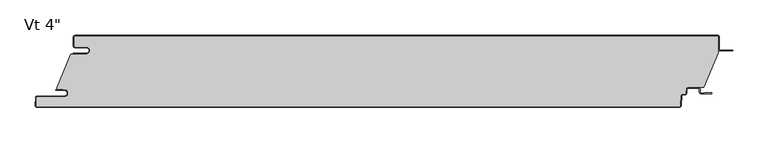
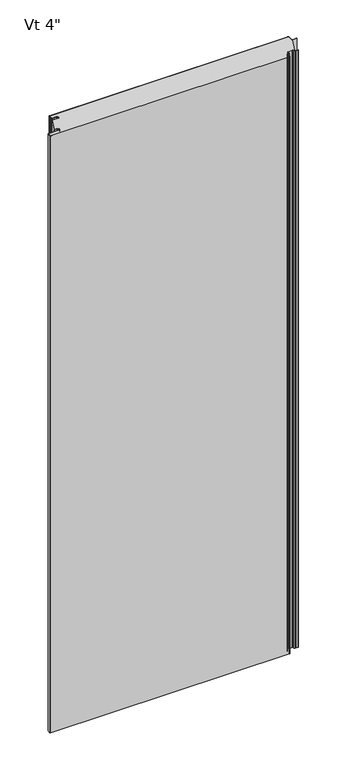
"""IFC4 building model written with IfcOpenShell, lengths in millimetres: plate geometry."""

from ifc_helpers import new_model, si_unit, point, frame, frame_2d, origin, origin_with_axes, place, context, project, spatial, polyline, circle_curve, ellipse_curve, trimmed, segment, composite_curve, outline, extrude, source, transform, mapped, element, save
from ifc_brep_helpers import plane_surface, cylinder_surface, revolved_surface, extruded_surface, advanced_brep


def plate_28f486fa(model_context):
    return source(origin(), model_context, "Body", "SolidModel", [
        extrude(outline(composite_curve([segment(polyline([(-438.4437502, -16.4625), (-454.3187502, -16.4625)]), True, "CONTINUOUS"), segment(trimmed(circle_curve(frame_2d((-454.3187502, -15.08125)), 1.38125), [point((-454.3187502, -16.4625))], [point((-455.7000002, -15.08125))], False, "CARTESIAN"), True, "CONTINUOUS"), segment(polyline([(-455.7000002, -15.08125), (-455.7000002, -2.38125)]), True, "CONTINUOUS"), segment(trimmed(circle_curve(frame_2d((-454.3187502, -2.38125)), 1.38125), [point((-455.7000002, -2.38125))], [point((-454.3187502, -1.0))], False, "CARTESIAN"), True, "CONTINUOUS"), segment(polyline([(-454.3187502, -1.0), (453.7312498, -1.0)]), True, "CONTINUOUS"), segment(trimmed(circle_curve(frame_2d((453.7312498, -2.38125)), 1.38125), [point((453.7312498, -1.0))], [point((455.1124998, -2.38125))], False, "CARTESIAN"), True, "CONTINUOUS"), segment(polyline([(455.1124998, -2.38125), (455.1124998, -24.9057308), (434.2955432, -73.6125), (411.8540781, -73.6125)]), True, "CONTINUOUS"), segment(trimmed(circle_curve(frame_2d((411.8540781, -76.2)), 2.5875), [point((411.8540781, -73.6125))], [point((409.2701242, -76.0645807))], True, "CARTESIAN"), True, "CONTINUOUS"), segment(polyline([(409.2701242, -76.0645807), (408.9680479, -81.828539)]), True, "CONTINUOUS"), segment(trimmed(circle_curve(frame_2d((407.5886909, -81.75625)), 1.38125), [point((408.9680479, -81.828539))], [point((407.5886909, -83.1375))], False, "CARTESIAN"), True, "CONTINUOUS"), segment(polyline([(407.5886909, -83.1375), (404.5448845, -83.1375)]), True, "CONTINUOUS"), segment(trimmed(circle_curve(frame_2d((404.5448845, -85.725)), 2.5875), [point((404.5448845, -83.1375))], [point((401.9609306, -85.5895807))], True, "CARTESIAN"), True, "CONTINUOUS"), segment(polyline([(401.9609306, -85.5895807), (401.2428676, -99.291039)]), True, "CONTINUOUS"), segment(trimmed(circle_curve(frame_2d((399.8635105, -99.21875)), 1.38125), [point((401.2428676, -99.291039))], [point((399.8635105, -100.6))], False, "CARTESIAN"), True, "CONTINUOUS"), segment(polyline([(399.8635105, -100.6), (-508.1799537, -100.6)]), True, "CONTINUOUS"), segment(trimmed(circle_curve(frame_2d((-508.1799537, -99.21875)), 1.38125), [point((-508.1799537, -100.6))], [point((-509.5593107, -99.146461))], False, "CARTESIAN"), True, "CONTINUOUS"), segment(polyline([(-509.5593107, -99.146461), (-508.9769293, -88.033961)]), True, "CONTINUOUS"), segment(trimmed(circle_curve(frame_2d((-507.5975722, -88.10625)), 1.38125), [point((-508.9769293, -88.033961))], [point((-507.5975722, -86.725))], False, "CARTESIAN"), True, "CONTINUOUS"), segment(polyline([(-507.5975722, -86.725), (-469.4142676, -86.725)]), True, "CONTINUOUS"), segment(trimmed(circle_curve(frame_2d((-469.4142676, -81.75625)), 4.96875), [point((-469.4142676, -86.725))], [point((-469.4142676, -76.7875))], True, "CARTESIAN"), True, "CONTINUOUS"), segment(polyline([(-469.4142676, -76.7875), (-471.0017676, -76.99375), (-471.0017676, -76.2), (-480.5125002, -76.2), (-480.5125002, -74.6157227), (-460.6260924, -26.4), (-438.4437502, -26.4)]), True, "CONTINUOUS"), segment(trimmed(circle_curve(frame_2d((-438.4437502, -21.43125)), 4.96875), [point((-438.4437502, -26.4))], [point((-438.4437502, -16.4625))], True, "CARTESIAN"), True, "CONTINUOUS")], self_intersect=False)), origin_with_axes(), (0.0, 0.0, 1.0), 2400.0),
        extrude(outline(composite_curve([segment(polyline([(-456.7000002, -25.4), (-438.4437502, -25.4)]), True, "CONTINUOUS"), segment(trimmed(circle_curve(frame_2d((-438.4437502, -21.43125)), 3.96875), [point((-438.4437502, -25.4))], [point((-438.4437502, -17.4625))], True, "CARTESIAN"), True, "CONTINUOUS"), segment(polyline([(-438.4437502, -17.4625), (-454.3187502, -17.4625)]), True, "CONTINUOUS"), segment(trimmed(circle_curve(frame_2d((-454.3187502, -15.08125)), 2.38125), [point((-454.3187502, -17.4625))], [point((-456.7000002, -15.08125))], False, "CARTESIAN"), True, "CONTINUOUS"), segment(polyline([(-456.7000002, -15.08125), (-456.7000002, -2.38125)]), True, "CONTINUOUS"), segment(trimmed(circle_curve(frame_2d((-454.3187502, -2.38125)), 2.38125), [point((-456.7000002, -2.38125))], [point((-454.3187502, 0.0))], False, "CARTESIAN"), True, "CONTINUOUS"), segment(polyline([(-454.3187502, 0.0), (453.7312498, 0.0)]), True, "CONTINUOUS"), segment(trimmed(circle_curve(frame_2d((453.7312498, -2.38125)), 2.38125), [point((453.7312498, 0.0))], [point((456.1124998, -2.38125))], False, "CARTESIAN"), True, "CONTINUOUS"), segment(polyline([(456.1124998, -2.38125), (456.1124998, -19.446875)]), True, "CONTINUOUS"), segment(trimmed(circle_curve(frame_2d((457.6999998, -19.446875)), 1.5875), [point((456.1124998, -19.446875))], [point((457.6999998, -21.034375))], True, "CARTESIAN"), True, "CONTINUOUS"), segment(polyline([(457.6999998, -21.034375), (475.1624998, -21.034375), (475.1624998, -22.034375), (457.6999998, -22.034375)]), True, "CONTINUOUS"), segment(trimmed(circle_curve(frame_2d((457.6999998, -19.446875)), 2.5875), [point((457.6999998, -22.034375))], [point((455.1124998, -19.446875))], False, "CARTESIAN"), True, "CONTINUOUS"), segment(polyline([(455.1124998, -19.446875), (455.1124998, -2.38125)]), True, "CONTINUOUS"), segment(trimmed(circle_curve(frame_2d((453.7312498, -2.38125)), 1.38125), [point((455.1124998, -2.38125))], [point((453.7312498, -1.0))], True, "CARTESIAN"), True, "CONTINUOUS"), segment(polyline([(453.7312498, -1.0), (-454.3187502, -1.0)]), True, "CONTINUOUS"), segment(trimmed(circle_curve(frame_2d((-454.3187502, -2.38125)), 1.38125), [point((-454.3187502, -1.0))], [point((-455.7000002, -2.38125))], True, "CARTESIAN"), True, "CONTINUOUS"), segment(polyline([(-455.7000002, -2.38125), (-455.7000002, -15.08125)]), True, "CONTINUOUS"), segment(trimmed(circle_curve(frame_2d((-454.3187502, -15.08125)), 1.38125), [point((-455.7000002, -15.08125))], [point((-454.3187502, -16.4625))], True, "CARTESIAN"), True, "CONTINUOUS"), segment(polyline([(-454.3187502, -16.4625), (-438.4437502, -16.4625)]), True, "CONTINUOUS"), segment(trimmed(circle_curve(frame_2d((-438.4437502, -21.43125)), 4.96875), [point((-438.4437502, -16.4625))], [point((-438.4437502, -26.4))], False, "CARTESIAN"), True, "CONTINUOUS"), segment(polyline([(-438.4437502, -26.4), (-456.7000002, -26.4), (-456.7000002, -25.4)]), True, "CONTINUOUS")], self_intersect=False)), origin_with_axes(), (0.0, 0.0, 1.0), 2400.0),
        advanced_brep(
        [(-480.7252051, -76.2, 2400.0), (-480.7252051, -77.7875, 2400.0), (-469.4142676, -77.7875, 2400.0), (-469.4142676, -85.725, 2400.0), (-507.5975722, -85.725, 2400.0), (-509.9755588, -87.981625, 2400.0), (-510.5579402, -99.094125, 2400.0), (-508.1799537, -101.6, 2400.0), (399.8635105, -101.6, 2400.0), (402.2414971, -99.343375, 2400.0), (402.9595601, -85.6419167, 2400.0), (404.5448845, -84.1375, 2400.0), (407.5886909, -84.1375, 2400.0), (409.9666775, -81.880875, 2400.0), (410.2687537, -76.1169167, 2400.0), (411.8540781, -74.6125, 2400.0), (426.7294824, -74.6125, 2400.0), (428.3169824, -76.2, 2400.0), (428.3169824, -80.3671875, 2400.0), (430.6982324, -82.7484375, 2400.0), (445.189853, -82.7484375, 2400.0), (445.189853, -80.9546875, 2400.0), (435.4607324, -80.9546875, 2400.0), (435.4607324, -81.7484375, 2400.0), (430.6982324, -81.7484375, 2400.0), (429.3169824, -80.3671875, 2400.0), (429.3169824, -76.2, 2400.0), (426.7294824, -73.6125, 2400.0), (411.8540781, -73.6125, 2400.0), (409.2701242, -76.0645807, 2400.0), (408.9680479, -81.828539, 2400.0), (407.5886909, -83.1375, 2400.0), (404.5448845, -83.1375, 2400.0), (401.9609306, -85.5895807, 2400.0), (401.2428676, -99.291039, 2400.0), (399.8635105, -100.6, 2400.0), (-508.1799537, -100.6, 2400.0), (-509.5593107, -99.146461, 2400.0), (-508.9769293, -88.033961, 2400.0), (-507.5975722, -86.725, 2400.0), (-469.4142676, -86.725, 2400.0), (-469.4142676, -76.7875, 2400.0), (-471.0017676, -76.99375, 2400.0), (-471.0017676, -76.2, 2400.0), (-480.7252051, -76.2, 0.0), (-471.0017676, -76.2, 0.0), (-471.0017676, -76.99375, 0.0), (-469.4142676, -76.7875, 0.0), (-469.4142676, -86.725, 0.0), (-507.5975722, -86.725, 0.0), (-508.9769293, -88.033961, 0.0), (-509.5593107, -99.146461, 0.0), (-508.1799537, -100.6, 0.0), (399.8635105, -100.6, 0.0), (401.2428676, -99.291039, 0.0), (401.9609306, -85.5895807, 0.0), (404.5448845, -83.1375, 0.0), (407.5886909, -83.1375, 0.0), (408.9680479, -81.828539, 0.0), (409.2701242, -76.0645807, 0.0), (411.8540781, -73.6125, 0.0), (426.7294824, -73.6125, 0.0), (429.3169824, -76.2, 0.0), (429.3169824, -80.3671875, 0.0), (430.6982324, -81.7484375, 0.0), (435.4607324, -81.7484375, 0.0), (435.4607324, -80.9546875, 0.0), (445.189853, -80.9546875, 0.0), (445.189853, -82.7484375, 0.0), (430.6982324, -82.7484375, 0.0), (428.3169824, -80.3671875, 0.0), (428.3169824, -76.2, 0.0), (426.7294824, -74.6125, 0.0), (411.8540781, -74.6125, 0.0), (410.2687537, -76.1169167, 0.0), (409.9666775, -81.880875, 0.0), (407.5886909, -84.1375, 0.0), (404.5448845, -84.1375, 0.0), (402.9595601, -85.6419167, 0.0), (402.2414971, -99.343375, 0.0), (399.8635105, -101.6, 0.0), (-508.1799537, -101.6, 0.0), (-510.5579402, -99.094125, 0.0), (-509.9755588, -87.981625, 0.0), (-507.5975722, -85.725, 0.0), (-469.4142676, -85.725, 0.0), (-469.4142676, -77.7875, 0.0), (-480.7252051, -77.7875, 0.0)],
        [
            (0, 1, circle_curve(frame((-480.7252051, -76.99375, 2400.0), z_axis=(0.0, 0.0, 1.0), x_axis=(1.0, 0.0, 0.0)), 0.79375)),
            (1, 2),
            (2, 3, circle_curve(frame((-469.4142676, -81.75625, 2400.0), z_axis=(0.0, 0.0, -1.0), x_axis=(1.0, 0.0, 0.0)), 3.96875)),
            (3, 4),
            (4, 5, circle_curve(frame((-507.5975722, -88.10625, 2400.0), z_axis=(0.0, 0.0, 1.0), x_axis=(1.0, 0.0, 0.0)), 2.38125)),
            (5, 6),
            (6, 7, circle_curve(frame((-508.1799537, -99.21875, 2400.0), z_axis=(0.0, 0.0, 1.0), x_axis=(1.0, 0.0, 0.0)), 2.38125)),
            (7, 8),
            (8, 9, circle_curve(frame((399.8635105, -99.21875, 2400.0), z_axis=(0.0, 0.0, 1.0), x_axis=(1.0, 0.0, 0.0)), 2.38125)),
            (9, 10),
            (10, 11, circle_curve(frame((404.5448845, -85.725, 2400.0), z_axis=(0.0, 0.0, -1.0), x_axis=(1.0, 0.0, 0.0)), 1.5875)),
            (11, 12),
            (12, 13, circle_curve(frame((407.5886909, -81.75625, 2400.0), z_axis=(0.0, 0.0, 1.0), x_axis=(1.0, 0.0, 0.0)), 2.38125)),
            (13, 14),
            (14, 15, circle_curve(frame((411.8540781, -76.2, 2400.0), z_axis=(0.0, 0.0, -1.0), x_axis=(1.0, 0.0, 0.0)), 1.5875)),
            (15, 16),
            (16, 17, circle_curve(frame((426.7294824, -76.2, 2400.0), z_axis=(0.0, 0.0, -1.0), x_axis=(1.0, 0.0, 0.0)), 1.5875)),
            (17, 18),
            (18, 19, circle_curve(frame((430.6982324, -80.3671875, 2400.0), z_axis=(0.0, 0.0, 1.0), x_axis=(1.0, 0.0, 0.0)), 2.38125)),
            (19, 20),
            (20, 21, ellipse_curve(frame((445.189853, -81.8515625, 2400.0), z_axis=(0.0, 0.0, 1.0), x_axis=(0.0, 1.0, 0.0)), 0.896875, 0.7852275)),
            (21, 22),
            (22, 23),
            (23, 24),
            (24, 25, circle_curve(frame((430.6982324, -80.3671875, 2400.0), z_axis=(0.0, 0.0, -1.0), x_axis=(1.0, 0.0, 0.0)), 1.38125)),
            (25, 26),
            (26, 27, circle_curve(frame((426.7294824, -76.2, 2400.0), z_axis=(0.0, 0.0, 1.0), x_axis=(1.0, 0.0, 0.0)), 2.5875)),
            (27, 28),
            (28, 29, circle_curve(frame((411.8540781, -76.2, 2400.0), z_axis=(0.0, 0.0, 1.0), x_axis=(1.0, 0.0, 0.0)), 2.5875)),
            (29, 30),
            (30, 31, circle_curve(frame((407.5886909, -81.75625, 2400.0), z_axis=(0.0, 0.0, -1.0), x_axis=(1.0, 0.0, 0.0)), 1.38125)),
            (31, 32),
            (32, 33, circle_curve(frame((404.5448845, -85.725, 2400.0), z_axis=(0.0, 0.0, 1.0), x_axis=(1.0, 0.0, 0.0)), 2.5875)),
            (33, 34),
            (34, 35, circle_curve(frame((399.8635105, -99.21875, 2400.0), z_axis=(0.0, 0.0, -1.0), x_axis=(1.0, 0.0, 0.0)), 1.38125)),
            (35, 36),
            (36, 37, circle_curve(frame((-508.1799537, -99.21875, 2400.0), z_axis=(0.0, 0.0, -1.0), x_axis=(1.0, 0.0, 0.0)), 1.38125)),
            (37, 38),
            (38, 39, circle_curve(frame((-507.5975722, -88.10625, 2400.0), z_axis=(0.0, 0.0, -1.0), x_axis=(1.0, 0.0, 0.0)), 1.38125)),
            (39, 40),
            (40, 41, circle_curve(frame((-469.4142676, -81.75625, 2400.0), z_axis=(0.0, 0.0, 1.0), x_axis=(1.0, 0.0, 0.0)), 4.96875)),
            (41, 42),
            (42, 43),
            (43, 0),
            (44, 45),
            (45, 46),
            (46, 47),
            (47, 48, circle_curve(frame((-469.4142676, -81.75625, 0.0), z_axis=(0.0, 0.0, -1.0), x_axis=(1.0, 0.0, 0.0)), 4.96875)),
            (48, 49),
            (49, 50, circle_curve(frame((-507.5975722, -88.10625, 0.0), z_axis=(0.0, 0.0, 1.0), x_axis=(1.0, 0.0, 0.0)), 1.38125)),
            (50, 51),
            (51, 52, circle_curve(frame((-508.1799537, -99.21875, 0.0), z_axis=(0.0, 0.0, 1.0), x_axis=(1.0, 0.0, 0.0)), 1.38125)),
            (52, 53),
            (53, 54, circle_curve(frame((399.8635105, -99.21875, 0.0), z_axis=(0.0, 0.0, 1.0), x_axis=(1.0, 0.0, 0.0)), 1.38125)),
            (54, 55),
            (55, 56, circle_curve(frame((404.5448845, -85.725, 0.0), z_axis=(0.0, 0.0, -1.0), x_axis=(1.0, 0.0, 0.0)), 2.5875)),
            (56, 57),
            (57, 58, circle_curve(frame((407.5886909, -81.75625, 0.0), z_axis=(0.0, 0.0, 1.0), x_axis=(1.0, 0.0, 0.0)), 1.38125)),
            (58, 59),
            (59, 60, circle_curve(frame((411.8540781, -76.2, 0.0), z_axis=(0.0, 0.0, -1.0), x_axis=(1.0, 0.0, 0.0)), 2.5875)),
            (60, 61),
            (61, 62, circle_curve(frame((426.7294824, -76.2, 0.0), z_axis=(0.0, 0.0, -1.0), x_axis=(1.0, 0.0, 0.0)), 2.5875)),
            (62, 63),
            (63, 64, circle_curve(frame((430.6982324, -80.3671875, 0.0), z_axis=(0.0, 0.0, 1.0), x_axis=(1.0, 0.0, 0.0)), 1.38125)),
            (64, 65),
            (65, 66),
            (66, 67),
            (67, 68, ellipse_curve(frame((445.189853, -81.8515625, 0.0), z_axis=(0.0, 0.0, -1.0), x_axis=(0.0, 1.0, 0.0)), 0.896875, 0.7852275)),
            (68, 69),
            (69, 70, circle_curve(frame((430.6982324, -80.3671875, 0.0), z_axis=(0.0, 0.0, -1.0), x_axis=(1.0, 0.0, 0.0)), 2.38125)),
            (70, 71),
            (71, 72, circle_curve(frame((426.7294824, -76.2, 0.0), z_axis=(0.0, 0.0, 1.0), x_axis=(1.0, 0.0, 0.0)), 1.5875)),
            (72, 73),
            (73, 74, circle_curve(frame((411.8540781, -76.2, 0.0), z_axis=(0.0, 0.0, 1.0), x_axis=(1.0, 0.0, 0.0)), 1.5875)),
            (74, 75),
            (75, 76, circle_curve(frame((407.5886909, -81.75625, 0.0), z_axis=(0.0, 0.0, -1.0), x_axis=(1.0, 0.0, 0.0)), 2.38125)),
            (76, 77),
            (77, 78, circle_curve(frame((404.5448845, -85.725, 0.0), z_axis=(0.0, 0.0, 1.0), x_axis=(1.0, 0.0, 0.0)), 1.5875)),
            (78, 79),
            (79, 80, circle_curve(frame((399.8635105, -99.21875, 0.0), z_axis=(0.0, 0.0, -1.0), x_axis=(1.0, 0.0, 0.0)), 2.38125)),
            (80, 81),
            (81, 82, circle_curve(frame((-508.1799537, -99.21875, 0.0), z_axis=(0.0, 0.0, -1.0), x_axis=(1.0, 0.0, 0.0)), 2.38125)),
            (82, 83),
            (83, 84, circle_curve(frame((-507.5975722, -88.10625, 0.0), z_axis=(0.0, 0.0, -1.0), x_axis=(1.0, 0.0, 0.0)), 2.38125)),
            (84, 85),
            (85, 86, circle_curve(frame((-469.4142676, -81.75625, 0.0), z_axis=(0.0, 0.0, 1.0), x_axis=(1.0, 0.0, 0.0)), 3.96875)),
            (86, 87),
            (87, 44, circle_curve(frame((-480.7252051, -76.99375, 0.0), z_axis=(0.0, 0.0, -1.0), x_axis=(1.0, 0.0, 0.0)), 0.79375)),
            (20, 68),
            (67, 21),
            (66, 22),
            (65, 23),
            (41, 47),
            (46, 42),
            (45, 43),
            (40, 48),
            (39, 49),
            (38, 50),
            (37, 51),
            (33, 55),
            (54, 34),
            (32, 56),
            (31, 57),
            (30, 58),
            (29, 59),
            (28, 60),
            (64, 24),
            (63, 25),
            (62, 26),
            (61, 27),
            (18, 70),
            (69, 19),
            (17, 71),
            (16, 72),
            (15, 73),
            (14, 74),
            (13, 75),
            (12, 76),
            (11, 77),
            (10, 78),
            (9, 79),
            (5, 83),
            (82, 6),
            (4, 84),
            (3, 85),
            (2, 86),
            (1, 87),
            (0, 44),
            (36, 52),
            (35, 53),
            (8, 80),
            (7, 81),
        ],
        [
            plane_surface(frame((-0.2937502, -101.6, 2400.0), z_axis=(0.0, 0.0, 1.0), x_axis=(0.0, -1.0, 0.0))),
            plane_surface(frame((-0.2937502, -101.6, 0.0), z_axis=(0.0, 0.0, -1.0), x_axis=(0.0, -1.0, 0.0))),
            extruded_surface(trimmed(ellipse_curve(frame((445.189853, -81.8515625, 2400.0), z_axis=(0.0, 0.0, -1.0), x_axis=(0.0, 1.0, 0.0)), 0.896875, 0.7852275), [point((445.189853, -80.9546875, 2400.0))], [point((445.189853, -82.7484375, 2400.0))], True, "CARTESIAN"), (0.0, 0.0, -2400.0), 2400.0),
            plane_surface(frame((435.4607324, -80.9546875, 2400.0), z_axis=(0.0, 1.0, 0.0), x_axis=(0.0, 0.0, -1.0))),
            plane_surface(frame((435.4607324, -81.7484375, 2400.0), z_axis=(-1.0, 0.0, 0.0), x_axis=(0.0, 0.0, -1.0))),
            plane_surface(frame((-471.0017676, -76.99375, 2400.0), z_axis=(-0.12883844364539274, 0.9916655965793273, 0.0), x_axis=(0.0, 0.0, -1.0))),
            plane_surface(frame((-471.0017676, -76.2, 2400.0), z_axis=(1.0, 0.0, 0.0), x_axis=(0.0, 0.0, -1.0))),
            cylinder_surface(frame((-469.4142676, -81.75625, 2400.0), z_axis=(0.0, 0.0, 1.0), x_axis=(1.0, 0.0, 0.0)), 4.96875),
            plane_surface(frame((-469.4142676, -86.725, 2400.0), z_axis=(0.0, -1.0, 0.0), x_axis=(0.0, 0.0, -1.0))),
            revolved_surface(polyline([(-506.2163222, -88.10625, 0.0), (-506.2163222, -88.10625, 2400.0)]), (-507.5975722, -88.10625, 2400.0), (0.0, 0.0, -1.0)),
            plane_surface(frame((-508.9769293, -88.033961, 2400.0), z_axis=(0.9986295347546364, -0.05233595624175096, 0.0), x_axis=(0.0, 0.0, -1.0))),
            plane_surface(frame((401.2428676, -99.291039, 2400.0), z_axis=(-0.9986295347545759, 0.05233595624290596, 0.0), x_axis=(0.0, 0.0, -1.0))),
            cylinder_surface(frame((404.5448845, -85.725, 2400.0), z_axis=(0.0, 0.0, 1.0), x_axis=(1.0, 0.0, 0.0)), 2.5875),
            plane_surface(frame((404.5448845, -83.1375, 2400.0), z_axis=(0.0, 1.0, 0.0), x_axis=(0.0, 0.0, -1.0))),
            revolved_surface(polyline([(408.96994090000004, -81.75625, 0.0), (408.96994090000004, -81.75625, 2400.0)]), (407.5886909, -81.75625, 2400.0), (0.0, 0.0, -1.0)),
            plane_surface(frame((408.9680479, -81.828539, 2400.0), z_axis=(-0.998629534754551, 0.05233595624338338, 0.0), x_axis=(0.0, 0.0, -1.0))),
            cylinder_surface(frame((411.8540781, -76.2, 2400.0), z_axis=(0.0, 0.0, 1.0), x_axis=(1.0, 0.0, 0.0)), 2.5875),
            plane_surface(frame((430.6982324, -81.7484375, 2400.0), z_axis=(0.0, 1.0, 0.0), x_axis=(0.0, 0.0, -1.0))),
            revolved_surface(polyline([(432.0794824, -80.3671875, 0.0), (432.0794824, -80.3671875, 2400.0)]), (430.6982324, -80.3671875, 2400.0), (0.0, 0.0, -1.0)),
            plane_surface(frame((429.3169824, -76.2, 2400.0), z_axis=(1.0, 0.0, 0.0), x_axis=(0.0, 0.0, -1.0))),
            cylinder_surface(frame((426.7294824, -76.2, 2400.0), z_axis=(0.0, 0.0, 1.0), x_axis=(1.0, 0.0, 0.0)), 2.5875),
            plane_surface(frame((411.8540781, -73.6125, 2400.0), z_axis=(0.0, 1.0, 0.0), x_axis=(0.0, 0.0, -1.0))),
            cylinder_surface(frame((430.6982324, -80.3671875, 2400.0), z_axis=(0.0, 0.0, 1.0), x_axis=(1.0, 0.0, 0.0)), 2.38125),
            plane_surface(frame((428.3169824, -80.3671875, 2400.0), z_axis=(-1.0, 0.0, 0.0), x_axis=(0.0, 0.0, -1.0))),
            revolved_surface(polyline([(428.3169824, -76.2, 0.0), (428.3169824, -76.2, 2400.0)]), (426.7294824, -76.2, 2400.0), (0.0, 0.0, -1.0)),
            plane_surface(frame((426.7294824, -74.6125, 2400.0), z_axis=(0.0, -1.0, 0.0), x_axis=(0.0, 0.0, -1.0))),
            revolved_surface(polyline([(413.44157809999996, -76.2, 0.0), (413.44157809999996, -76.2, 2400.0)]), (411.8540781, -76.2, 2400.0), (0.0, 0.0, -1.0)),
            plane_surface(frame((410.2687537, -76.1169167, 2400.0), z_axis=(0.9986295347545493, -0.05233595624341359, 0.0), x_axis=(0.0, 0.0, -1.0))),
            cylinder_surface(frame((407.5886909, -81.75625, 2400.0), z_axis=(0.0, 0.0, 1.0), x_axis=(1.0, 0.0, 0.0)), 2.38125),
            plane_surface(frame((407.5886909, -84.1375, 2400.0), z_axis=(0.0, -1.0, 0.0), x_axis=(0.0, 0.0, -1.0))),
            revolved_surface(polyline([(406.1323845, -85.725, 0.0), (406.1323845, -85.725, 2400.0)]), (404.5448845, -85.725, 2400.0), (0.0, 0.0, -1.0)),
            plane_surface(frame((402.9595601, -85.6419167, 2400.0), z_axis=(0.9986295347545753, -0.052335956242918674, 0.0), x_axis=(0.0, 0.0, -1.0))),
            plane_surface(frame((-510.5579402, -99.094125, 2400.0), z_axis=(-0.9986295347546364, 0.05233595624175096, 0.0), x_axis=(0.0, 0.0, -1.0))),
            cylinder_surface(frame((-507.5975722, -88.10625, 2400.0), z_axis=(0.0, 0.0, 1.0), x_axis=(1.0, 0.0, 0.0)), 2.38125),
            plane_surface(frame((-507.5975722, -85.725, 2400.0), z_axis=(0.0, 1.0, 0.0), x_axis=(0.0, 0.0, -1.0))),
            revolved_surface(polyline([(-465.4455176, -81.75625, 0.0), (-465.4455176, -81.75625, 2400.0)]), (-469.4142676, -81.75625, 2400.0), (0.0, 0.0, -1.0)),
            plane_surface(frame((-469.4142676, -77.7875, 2400.0), z_axis=(0.0, -1.0, 0.0), x_axis=(0.0, 0.0, -1.0))),
            cylinder_surface(frame((-480.7252051, -76.99375, 2400.0), z_axis=(0.0, 0.0, 1.0), x_axis=(1.0, 0.0, 0.0)), 0.79375),
            plane_surface(frame((-480.7252051, -76.2, 2400.0), z_axis=(0.0, 1.0, 0.0), x_axis=(0.0, 0.0, -1.0))),
            revolved_surface(polyline([(-506.7987037, -99.21875, 0.0), (-506.7987037, -99.21875, 2400.0)]), (-508.1799537, -99.21875, 2400.0), (0.0, 0.0, -1.0)),
            plane_surface(frame((-508.1799537, -100.6, 2400.0), z_axis=(0.0, 1.0, 0.0), x_axis=(0.0, 0.0, -1.0))),
            revolved_surface(polyline([(401.24476050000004, -99.21875, 0.0), (401.24476050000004, -99.21875, 2400.0)]), (399.8635105, -99.21875, 2400.0), (0.0, 0.0, -1.0)),
            plane_surface(frame((445.189853, -82.7484375, 2400.0), z_axis=(0.0, -1.0, 0.0), x_axis=(0.0, 0.0, -1.0))),
            cylinder_surface(frame((399.8635105, -99.21875, 2400.0), z_axis=(0.0, 0.0, 1.0), x_axis=(1.0, 0.0, 0.0)), 2.38125),
            plane_surface(frame((399.8635105, -101.6, 2400.0), z_axis=(0.0, -1.0, 0.0), x_axis=(0.0, 0.0, -1.0))),
            cylinder_surface(frame((-508.1799537, -99.21875, 2400.0), z_axis=(0.0, 0.0, 1.0), x_axis=(1.0, 0.0, 0.0)), 2.38125),
        ],
        [
            (0, [[1, 2, 3, 4, 5, 6, 7, 8, 9, 10, 11, 12, 13, 14, 15, 16, 17, 18, 19, 20, 21, 22, 23, 24, 25, 26, 27, 28, 29, 30, 31, 32, 33, 34, 35, 36, 37, 38, 39, 40, 41, 42, 43, 44]]),
            (1, [[45, 46, 47, 48, 49, 50, 51, 52, 53, 54, 55, 56, 57, 58, 59, 60, 61, 62, 63, 64, 65, 66, 67, 68, 69, 70, 71, 72, 73, 74, 75, 76, 77, 78, 79, 80, 81, 82, 83, 84, 85, 86, 87, 88]]),
            (2, [[89, -68, 90, -21]]),
            (3, [[-90, -67, 91, -22]]),
            (4, [[-91, -66, 92, -23]]),
            (5, [[93, -47, 94, -42]]),
            (6, [[-94, -46, 95, -43]]),
            (7, [[96, -48, -93, -41]]),
            (8, [[97, -49, -96, -40]]),
            (9, [[98, -50, -97, -39]]),
            (10, [[99, -51, -98, -38]]),
            (11, [[100, -55, 101, -34]]),
            (12, [[102, -56, -100, -33]]),
            (13, [[103, -57, -102, -32]]),
            (14, [[104, -58, -103, -31]]),
            (15, [[105, -59, -104, -30]]),
            (16, [[106, -60, -105, -29]]),
            (17, [[-92, -65, 107, -24]]),
            (18, [[-107, -64, 108, -25]]),
            (19, [[-108, -63, 109, -26]]),
            (20, [[-109, -62, 110, -27]]),
            (21, [[-110, -61, -106, -28]]),
            (22, [[111, -70, 112, -19]]),
            (23, [[113, -71, -111, -18]]),
            (24, [[114, -72, -113, -17]]),
            (25, [[115, -73, -114, -16]]),
            (26, [[116, -74, -115, -15]]),
            (27, [[117, -75, -116, -14]]),
            (28, [[118, -76, -117, -13]]),
            (29, [[119, -77, -118, -12]]),
            (30, [[120, -78, -119, -11]]),
            (31, [[121, -79, -120, -10]]),
            (32, [[122, -83, 123, -6]]),
            (33, [[124, -84, -122, -5]]),
            (34, [[125, -85, -124, -4]]),
            (35, [[126, -86, -125, -3]]),
            (36, [[127, -87, -126, -2]]),
            (37, [[128, -88, -127, -1]]),
            (38, [[-95, -45, -128, -44]]),
            (39, [[129, -52, -99, -37]]),
            (40, [[130, -53, -129, -36]]),
            (41, [[-101, -54, -130, -35]]),
            (42, [[-112, -69, -89, -20]]),
            (43, [[131, -80, -121, -9]]),
            (44, [[132, -81, -131, -8]]),
            (45, [[-123, -82, -132, -7]]),
        ],
    ),
    ])


if __name__ == "__main__":
    model = new_model("IFC4")
    model_context = context("Model", 3, world=origin())
    ifc_project = project(units=[si_unit("LENGTHUNIT", "METRE", prefix="MILLI")], contexts=[model_context])
    site = spatial("IfcSite", under=ifc_project)
    building = spatial("IfcBuilding", under=site)
    placement = place(None, origin())
    plate_shape = plate_28f486fa(model_context)
    element("IfcPlate", 1, ObjectType="KIP-36-DWTR-R19-CP-Vt-F : Vt 4\"", at=placement, inside=building, context=model_context, shape_type="MappedRepresentation", body=[
        mapped(plate_shape, transform((0.0, 0.0, 0.0), x_axis=(1.0, 0.0, 0.0), y_axis=(0.0, 1.0, 0.0), z_axis=(0.0, 0.0, 1.0))),
    ])
    save(model, "model.ifc")
